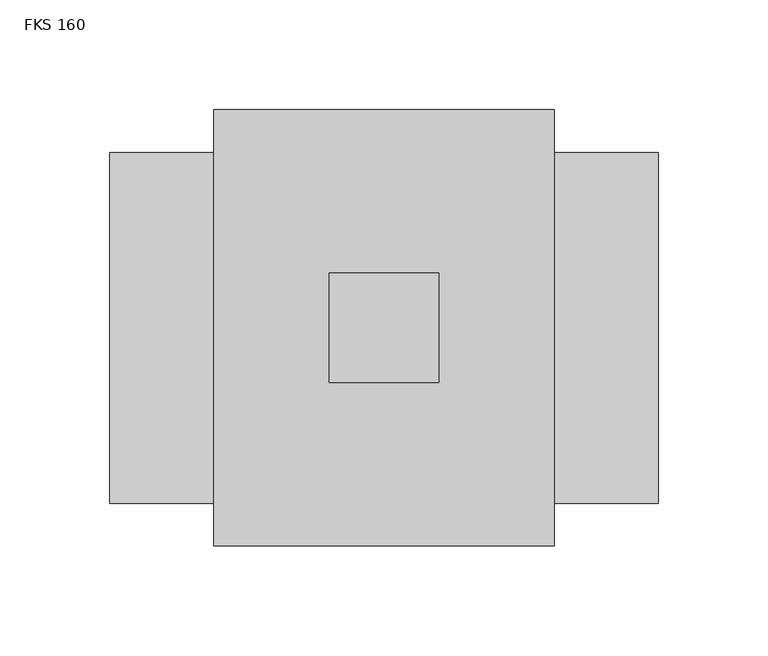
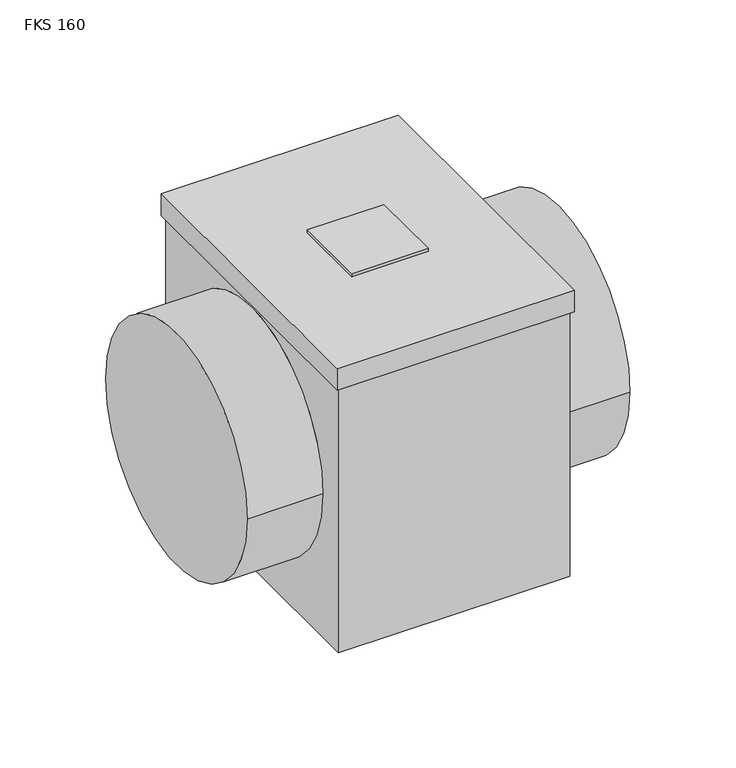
"""IFC4 building model written with IfcOpenShell, lengths in millimetres: damper geometry, KORF_Фильтр_Кассетный_Круглый_FKS : FKS 160."""

from ifc_helpers import new_model, si_unit, frame, origin, place, context, project, spatial, polyline, circle_curve, outline, extrude, source, transform, mapped, element, save
from ifc_brep_helpers import plane_surface, cylinder_surface, advanced_brep


def fks_160_d0bd64ff(model_context):
    return source(origin(), model_context, "Body", "SolidModel", [
        extrude(outline(polyline([(150.0, 25.0), (150.0, -25.0), (100.0, -25.0), (100.0, 25.0), (150.0, 25.0)])), frame((0.0, 0.0, 99.0), z_axis=(0.0, 0.0, 1.0), x_axis=(1.0, 0.0, 0.0)), (0.0, 0.0, 1.0), 2.0),
        advanced_brep(
        [(250.0, -80.0, 0.0), (250.0, 80.0, 0.0), (0.0, -80.0, 0.0), (0.0, 80.0, 0.0), (200.5, -80.0, 0.0), (200.5, 80.0, 0.0), (49.5, 80.0, 0.0), (49.5, -80.0, 0.0), (200.5, -97.5, -99.0), (200.5, 97.5, -99.0), (200.5, 97.5, 84.0), (200.5, -97.5, 84.0), (49.5, 97.5, -99.0), (49.5, -97.5, -99.0), (49.5, -97.5, 84.0), (49.5, 97.5, 84.0), (202.5, 99.5, 99.0), (47.5, 99.5, 99.0), (47.5, -99.5, 99.0), (202.5, -99.5, 99.0), (202.5, 99.5, 84.0), (202.5, -99.5, 84.0), (47.5, -99.5, 84.0), (47.5, 99.5, 84.0)],
        [
            (0, 1, circle_curve(frame((250.0, 0.0, 0.0), z_axis=(1.0, 0.0, 0.0), x_axis=(0.0, 1.0, 0.0)), 80.0)),
            (1, 0, circle_curve(frame((250.0, 0.0, 0.0), z_axis=(1.0, 0.0, 0.0), x_axis=(0.0, 1.0, 0.0)), 80.0)),
            (2, 3, circle_curve(frame((0.0, 0.0, 0.0), z_axis=(-1.0, 0.0, 0.0), x_axis=(0.0, 1.0, 0.0)), 80.0)),
            (3, 2, circle_curve(frame((0.0, 0.0, 0.0), z_axis=(-1.0, 0.0, 0.0), x_axis=(0.0, 1.0, 0.0)), 80.0)),
            (0, 4),
            (4, 5, circle_curve(frame((200.5, 0.0, 0.0), z_axis=(1.0, 0.0, 0.0), x_axis=(0.0, 1.0, 0.0)), 80.0)),
            (5, 1),
            (3, 6),
            (6, 7, circle_curve(frame((49.5, 0.0, 0.0), z_axis=(-1.0, 0.0, 0.0), x_axis=(0.0, 1.0, 0.0)), 80.0)),
            (7, 2),
            (5, 4, circle_curve(frame((200.5, 0.0, 0.0), z_axis=(1.0, 0.0, 0.0), x_axis=(0.0, 1.0, 0.0)), 80.0)),
            (7, 6, circle_curve(frame((49.5, 0.0, 0.0), z_axis=(-1.0, 0.0, 0.0), x_axis=(0.0, 1.0, 0.0)), 80.0)),
            (8, 9),
            (9, 10),
            (10, 11),
            (11, 8),
            (12, 13),
            (13, 14),
            (14, 15),
            (15, 12),
            (13, 8),
            (11, 14),
            (12, 9),
            (15, 10),
            (16, 17),
            (17, 18),
            (18, 19),
            (19, 16),
            (20, 21),
            (21, 22),
            (22, 23),
            (23, 20),
            (16, 20),
            (23, 17),
            (22, 18),
            (21, 19),
        ],
        [
            plane_surface(frame((250.0, 80.0, 0.0), z_axis=(1.0, 0.0, 0.0), x_axis=(0.0, 0.0, 1.0))),
            plane_surface(frame((0.0, 80.0, 0.0), z_axis=(-1.0, 0.0, 0.0), x_axis=(0.0, 0.0, -1.0))),
            cylinder_surface(frame((0.0, 0.0, 0.0), z_axis=(1.0, 0.0, 0.0), x_axis=(0.0, 1.0, 0.0)), 80.0),
            plane_surface(frame((200.5, -97.5, 99.0), z_axis=(1.0, 0.0, 0.0), x_axis=(0.0, 0.0, -1.0))),
            plane_surface(frame((49.5, -97.5, 99.0), z_axis=(-1.0, 0.0, 0.0), x_axis=(0.0, 0.0, 1.0))),
            plane_surface(frame((200.5, -97.5, 99.0), z_axis=(0.0, -1.0, 0.0), x_axis=(-1.0, 0.0, 0.0))),
            plane_surface(frame((200.5, -97.5, -99.0), z_axis=(0.0, 0.0, -1.0), x_axis=(-1.0, 0.0, 0.0))),
            plane_surface(frame((200.5, 97.5, -99.0), z_axis=(0.0, 1.0, 0.0), x_axis=(-1.0, 0.0, 0.0))),
            plane_surface(frame((200.5, 97.5, 99.0), z_axis=(0.0, 0.0, 1.0), x_axis=(-1.0, 0.0, 0.0))),
            plane_surface(frame((47.5, 99.5, 84.0), z_axis=(0.0, 0.0, -1.0), x_axis=(1.0, 0.0, 0.0))),
            plane_surface(frame((202.5, 99.5, 99.0), z_axis=(0.0, 1.0, 0.0), x_axis=(0.0, 0.0, -1.0))),
            plane_surface(frame((47.5, 99.5, 99.0), z_axis=(-1.0, 0.0, 0.0), x_axis=(0.0, 0.0, -1.0))),
            plane_surface(frame((47.5, -99.5, 99.0), z_axis=(0.0, -1.0, 0.0), x_axis=(0.0, 0.0, -1.0))),
            plane_surface(frame((202.5, -99.5, 99.0), z_axis=(1.0, 0.0, 0.0), x_axis=(0.0, 0.0, -1.0))),
        ],
        [
            (0, [[1, 2]]),
            (1, [[3, 4]]),
            (2, [[-1, 5, 6, 7]]),
            (2, [[-4, 8, 9, 10]]),
            (2, [[-2, -7, 11, -5]]),
            (2, [[-3, -10, 12, -8]]),
            (3, [[13, 14, 15, 16], [-6, -11]]),
            (4, [[17, 18, 19, 20], [-9, -12]]),
            (5, [[21, -16, 22, -18]]),
            (6, [[-13, -21, -17, 23]]),
            (7, [[-23, -20, 24, -14]]),
            (8, [[25, 26, 27, 28]]),
            (9, [[29, 30, 31, 32], [-15, -24, -19, -22]]),
            (10, [[-25, 33, -32, 34]]),
            (11, [[-26, -34, -31, 35]]),
            (12, [[-27, -35, -30, 36]]),
            (13, [[-28, -36, -29, -33]]),
        ],
    ),
    ])


if __name__ == "__main__":
    model = new_model("IFC4")
    model_context = context("Model", 3, world=origin())
    ifc_project = project(units=[si_unit("LENGTHUNIT", "METRE", prefix="MILLI")], contexts=[model_context])
    site = spatial("IfcSite", under=ifc_project)
    building = spatial("IfcBuilding", under=site)
    placement = place(None, origin())
    fks_160_shape = fks_160_d0bd64ff(model_context)
    element("IfcDamper", 1, ObjectType="KORF_Фильтр_Кассетный_Круглый_FKS : FKS 160", at=placement, inside=building, context=model_context, shape_type="MappedRepresentation", body=[
        mapped(fks_160_shape, transform((0.0, 0.0, 0.0), x_axis=(1.0, 0.0, 0.0), y_axis=(0.0, 1.0, 0.0), z_axis=(0.0, 0.0, 1.0))),
    ])
    save(model, "model.ifc")
